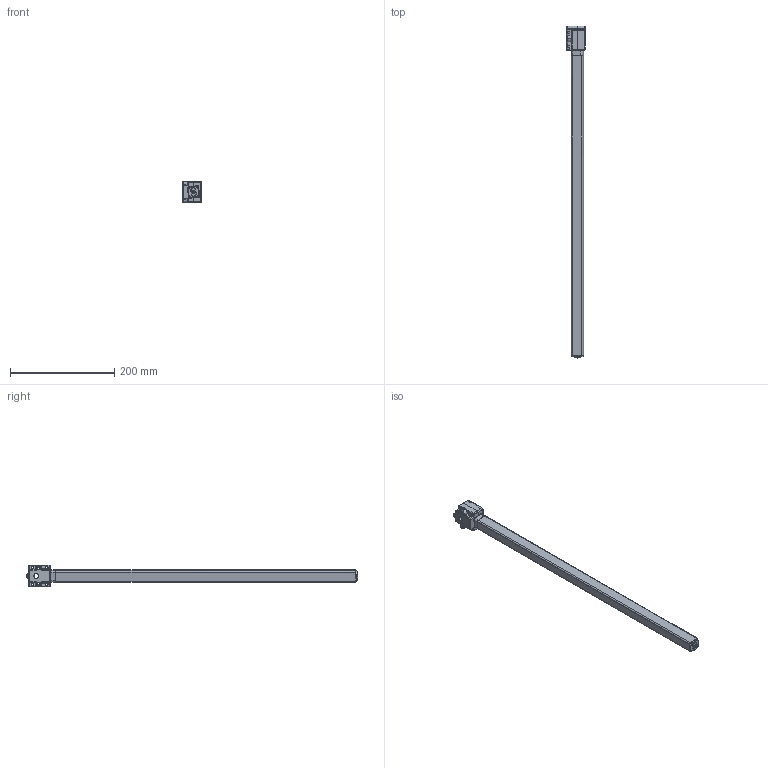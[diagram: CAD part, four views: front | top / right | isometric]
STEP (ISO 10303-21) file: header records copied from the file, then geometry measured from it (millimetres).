
FILE_DESCRIPTION(/* description */ (''),/* implementation_level */ '2;1');
FILE_NAME(/* name */ 'TBS1',/* time_stamp */ '2015-03-03T10:38:20+08:00',/* author */ (''),/* organization */ (''),/* preprocessor_version */ 'ST-DEVELOPER v15',/* originating_system */ '',/* authorisation */ '');
FILE_SCHEMA (('AUTOMOTIVE_DESIGN_CC2'));
Products named in the file (1): Document
Bounding box: 36 x 635.5 x 42 mm (x, y, z)
Volume: 82509.7 mm3; surface area: 115578.1 mm2
Topology: 2 solids, 13 shells, 1474 faces, 3515 edges, 1901 vertices
Faces by surface type: bspline 1474
Entity records: 200782 total; most frequent: CARTESIAN_POINT 158382, B_SPLINE_CURVE_WITH_KNOTS 8763, ORIENTED_EDGE 6621, PCURVE 6621, DEFINITIONAL_REPRESENTATION 6621, SURFACE_CURVE 3341, EDGE_CURVE 3341, VERTEX_POINT 1901
